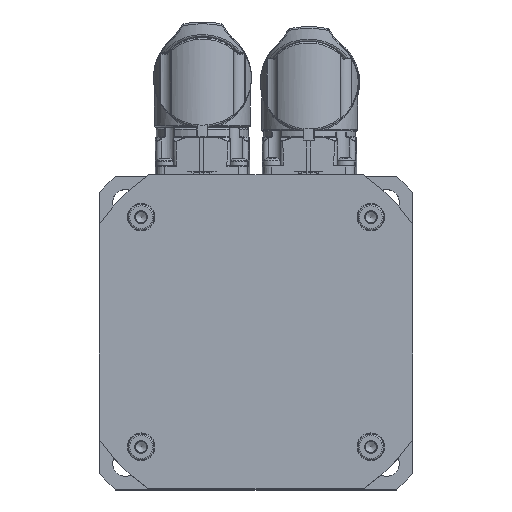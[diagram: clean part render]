
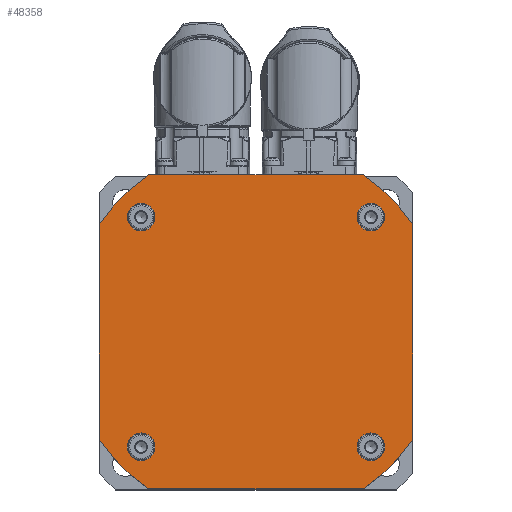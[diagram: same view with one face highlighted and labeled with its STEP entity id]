
A CAD part, top view. The second image highlights one B-rep face of the part: STEP entity #48358.
In plain terms, the highlighted planar face has unit normal (0, 0, 1).
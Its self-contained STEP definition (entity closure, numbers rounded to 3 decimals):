
#7391=LINE('',#70137,#9156);
#7397=LINE('',#70172,#9162);
#7400=LINE('',#70180,#9165);
#7404=LINE('',#70188,#9169);
#9156=VECTOR('',#57224,58.172);
#9162=VECTOR('',#57268,58.172);
#9165=VECTOR('',#57277,58.172);
#9169=VECTOR('',#57287,58.172);
#10887=PLANE('',#51540);
#11491=FACE_BOUND('',#15039,.T.);
#11492=FACE_BOUND('',#15040,.T.);
#11493=FACE_BOUND('',#15041,.T.);
#11494=FACE_BOUND('',#15042,.T.);
#11495=FACE_BOUND('',#15043,.T.);
#15039=EDGE_LOOP('',(#33265));
#15040=EDGE_LOOP('',(#33266));
#15041=EDGE_LOOP('',(#33267));
#15042=EDGE_LOOP('',(#33268));
#15043=EDGE_LOOP('',(#33269,#33270,#33271,#33272,#33273,#33274,#33275,#33276));
#18445=CIRCLE('',#51513,51.5);
#18446=CIRCLE('',#51516,3.75);
#18448=CIRCLE('',#51520,3.75);
#18450=CIRCLE('',#51524,3.75);
#18452=CIRCLE('',#51528,3.75);
#18454=CIRCLE('',#51532,51.5);
#18455=CIRCLE('',#51535,51.5);
#18456=CIRCLE('',#51538,51.5);
#21231=VERTEX_POINT('',#70130);
#21232=VERTEX_POINT('',#70132);
#21233=VERTEX_POINT('',#70136);
#21234=VERTEX_POINT('',#70141);
#21236=VERTEX_POINT('',#70147);
#21238=VERTEX_POINT('',#70153);
#21240=VERTEX_POINT('',#70159);
#21242=VERTEX_POINT('',#70165);
#21243=VERTEX_POINT('',#70167);
#21244=VERTEX_POINT('',#70174);
#21245=VERTEX_POINT('',#70179);
#21246=VERTEX_POINT('',#70183);
#25813=EDGE_CURVE('',#21232,#21231,#18445,.T.);
#25815=EDGE_CURVE('',#21233,#21232,#7391,.T.);
#25818=EDGE_CURVE('',#21234,#21234,#18446,.T.);
#25820=EDGE_CURVE('',#21236,#21236,#18448,.T.);
#25822=EDGE_CURVE('',#21238,#21238,#18450,.T.);
#25824=EDGE_CURVE('',#21240,#21240,#18452,.T.);
#25827=EDGE_CURVE('',#21243,#21242,#18454,.T.);
#25830=EDGE_CURVE('',#21231,#21243,#7397,.T.);
#25831=EDGE_CURVE('',#21244,#21233,#18455,.T.);
#25834=EDGE_CURVE('',#21245,#21244,#7400,.T.);
#25836=EDGE_CURVE('',#21246,#21245,#18456,.T.);
#25839=EDGE_CURVE('',#21242,#21246,#7404,.T.);
#33265=ORIENTED_EDGE('',*,*,#25818,.T.);
#33266=ORIENTED_EDGE('',*,*,#25820,.T.);
#33267=ORIENTED_EDGE('',*,*,#25822,.T.);
#33268=ORIENTED_EDGE('',*,*,#25824,.T.);
#33269=ORIENTED_EDGE('',*,*,#25839,.T.);
#33270=ORIENTED_EDGE('',*,*,#25836,.T.);
#33271=ORIENTED_EDGE('',*,*,#25834,.T.);
#33272=ORIENTED_EDGE('',*,*,#25831,.T.);
#33273=ORIENTED_EDGE('',*,*,#25815,.T.);
#33274=ORIENTED_EDGE('',*,*,#25813,.T.);
#33275=ORIENTED_EDGE('',*,*,#25830,.T.);
#33276=ORIENTED_EDGE('',*,*,#25827,.T.);
#48358=ADVANCED_FACE('',(#11491,#11492,#11493,#11494,#11495),#10887,.T.);
#51513=AXIS2_PLACEMENT_3D('',#70133,#57219,#57220);
#51516=AXIS2_PLACEMENT_3D('',#70142,#57229,#57230);
#51520=AXIS2_PLACEMENT_3D('',#70148,#57237,#57238);
#51524=AXIS2_PLACEMENT_3D('',#70154,#57245,#57246);
#51528=AXIS2_PLACEMENT_3D('',#70160,#57253,#57254);
#51532=AXIS2_PLACEMENT_3D('',#70168,#57262,#57263);
#51535=AXIS2_PLACEMENT_3D('',#70175,#57271,#57272);
#51538=AXIS2_PLACEMENT_3D('',#70184,#57281,#57282);
#51540=AXIS2_PLACEMENT_3D('',#70189,#57288,#57289);
#57219=DIRECTION('center_axis',(0.,0.,1.));
#57220=DIRECTION('ref_axis',(0.565,-0.825,0.));
#57224=DIRECTION('',(1.,0.,0.));
#57229=DIRECTION('center_axis',(0.,0.,-1.));
#57230=DIRECTION('ref_axis',(0.,-1.,0.));
#57237=DIRECTION('center_axis',(0.,0.,-1.));
#57238=DIRECTION('ref_axis',(-1.,0.,0.));
#57245=DIRECTION('center_axis',(0.,0.,-1.));
#57246=DIRECTION('ref_axis',(0.,1.,0.));
#57253=DIRECTION('center_axis',(0.,0.,-1.));
#57254=DIRECTION('ref_axis',(1.,0.,0.));
#57262=DIRECTION('center_axis',(0.,0.,1.));
#57263=DIRECTION('ref_axis',(0.825,0.565,0.));
#57268=DIRECTION('',(0.,1.,0.));
#57271=DIRECTION('center_axis',(0.,0.,1.));
#57272=DIRECTION('ref_axis',(-0.825,-0.565,0.));
#57277=DIRECTION('',(0.,-1.,0.));
#57281=DIRECTION('center_axis',(0.,0.,1.));
#57282=DIRECTION('ref_axis',(-0.565,0.825,0.));
#57287=DIRECTION('',(-1.,0.,0.));
#57288=DIRECTION('center_axis',(0.,0.,1.));
#57289=DIRECTION('ref_axis',(1.,0.,0.));
#70130=CARTESIAN_POINT('',(42.5,-29.086,177.6));
#70132=CARTESIAN_POINT('',(29.086,-42.5,177.6));
#70133=CARTESIAN_POINT('Origin',(0.,0.,177.6));
#70136=CARTESIAN_POINT('',(-29.086,-42.5,177.6));
#70137=CARTESIAN_POINT('',(-42.5,-42.5,177.6));
#70141=CARTESIAN_POINT('',(31.113,-34.863,177.6));
#70142=CARTESIAN_POINT('Origin',(31.113,-31.113,177.6));
#70147=CARTESIAN_POINT('',(-34.863,-31.113,177.6));
#70148=CARTESIAN_POINT('Origin',(-31.113,-31.113,177.6));
#70153=CARTESIAN_POINT('',(-31.113,34.863,177.6));
#70154=CARTESIAN_POINT('Origin',(-31.113,31.113,177.6));
#70159=CARTESIAN_POINT('',(34.863,31.113,177.6));
#70160=CARTESIAN_POINT('Origin',(31.113,31.113,177.6));
#70165=CARTESIAN_POINT('',(29.086,42.5,177.6));
#70167=CARTESIAN_POINT('',(42.5,29.086,177.6));
#70168=CARTESIAN_POINT('Origin',(0.,0.,177.6));
#70172=CARTESIAN_POINT('',(42.5,-42.5,177.6));
#70174=CARTESIAN_POINT('',(-42.5,-29.086,177.6));
#70175=CARTESIAN_POINT('Origin',(0.,0.,177.6));
#70179=CARTESIAN_POINT('',(-42.5,29.086,177.6));
#70180=CARTESIAN_POINT('',(-42.5,42.5,177.6));
#70183=CARTESIAN_POINT('',(-29.086,42.5,177.6));
#70184=CARTESIAN_POINT('Origin',(0.,0.,177.6));
#70188=CARTESIAN_POINT('',(42.5,42.5,177.6));
#70189=CARTESIAN_POINT('Origin',(0.,0.,
177.6));
